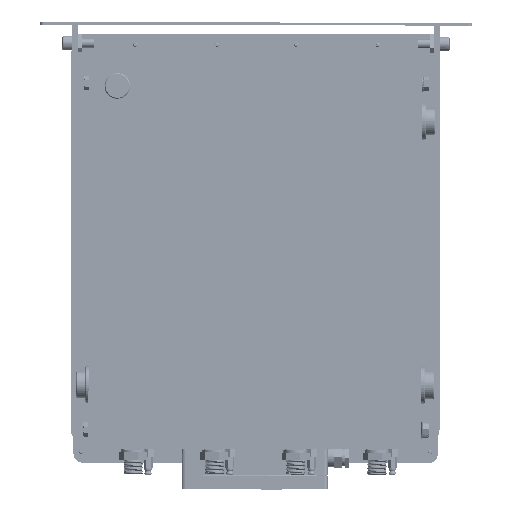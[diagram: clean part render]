
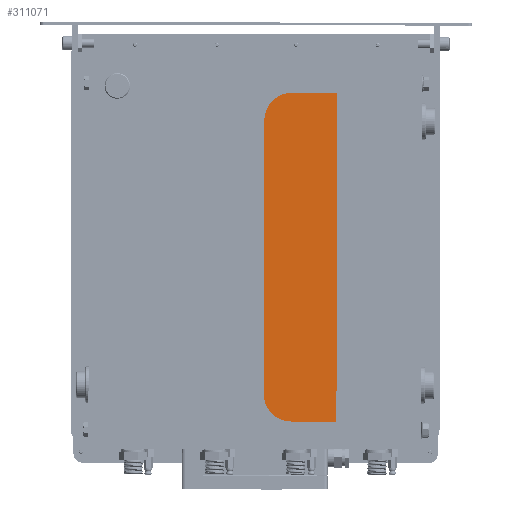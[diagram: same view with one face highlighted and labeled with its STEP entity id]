
A CAD part, left-side view. The second image highlights one B-rep face of the part: STEP entity #311071.
In plain terms, the highlighted planar face has unit normal (-1, 0, 0).
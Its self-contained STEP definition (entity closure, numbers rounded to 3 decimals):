
#1935 = CARTESIAN_POINT ( 'NONE',  ( -474.654, -89.817, -152.748 ) ) ;
#3668 = FACE_OUTER_BOUND ( 'NONE', #107673, .T. ) ;
#6224 = VERTEX_POINT ( 'NONE', #675139 ) ;
#6258 = DIRECTION ( 'NONE',  ( -1., 0., 0. ) ) ;
#10608 = EDGE_CURVE ( 'NONE', #527935, #594265, #633053, .T. ) ;
#11725 = ORIENTED_EDGE ( 'NONE', *, *, #548638, .F. ) ;
#16245 = ORIENTED_EDGE ( 'NONE', *, *, #467675, .F. ) ;
#29129 = DIRECTION ( 'NONE',  ( 0., -0.002, 1. ) ) ;
#37312 = EDGE_LOOP ( 'NONE', ( #623982, #812545 ) ) ;
#51922 = DIRECTION ( 'NONE',  ( -1., 0., 0. ) ) ;
#53076 = VECTOR ( 'NONE', #738339, 1000. ) ;
#61469 = CARTESIAN_POINT ( 'NONE',  ( -474.654, -178.817, -152.933 ) ) ;
#63886 = CARTESIAN_POINT ( 'NONE',  ( -474.654, -97.261, 238.238 ) ) ;
#69806 = EDGE_LOOP ( 'NONE', ( #189135, #16245 ) ) ;
#75980 = AXIS2_PLACEMENT_3D ( 'NONE', #413639, #797545, #400562 ) ;
#86024 = VERTEX_POINT ( 'NONE', #235310 ) ;
#88205 = DIRECTION ( 'NONE',  ( 0., -1., -0.002 ) ) ;
#96599 = VERTEX_POINT ( 'NONE', #789903 ) ;
#107673 = EDGE_LOOP ( 'NONE', ( #534698, #363158, #569594, #182993 ) ) ;
#152787 = DIRECTION ( 'NONE',  ( -1., 0., 0. ) ) ;
#152804 = DIRECTION ( 'NONE',  ( -1., 0., 0. ) ) ;
#162263 = AXIS2_PLACEMENT_3D ( 'NONE', #374166, #581360, #246322 ) ;
#178066 = CARTESIAN_POINT ( 'NONE',  ( -474.654, -97.261, 238.238 ) ) ;
#179233 = VECTOR ( 'NONE', #88205, 1000. ) ;
#182993 = ORIENTED_EDGE ( 'NONE', *, *, #495577, .T. ) ;
#188619 = DIRECTION ( 'NONE',  ( 0., -0.002, 1. ) ) ;
#188927 = AXIS2_PLACEMENT_3D ( 'NONE', #63886, #253826, #271132 ) ;
#189135 = ORIENTED_EDGE ( 'NONE', *, *, #565856, .F. ) ;
#190206 = ORIENTED_EDGE ( 'NONE', *, *, #380098, .F. ) ;
#191095 = DIRECTION ( 'NONE',  ( -1., 0., 0. ) ) ;
#215349 = CARTESIAN_POINT ( 'NONE',  ( -474.654, -90.65, 247.252 ) ) ;
#221628 = VERTEX_POINT ( 'NONE', #614911 ) ;
#225328 = AXIS2_PLACEMENT_3D ( 'NONE', #359930, #152787, #29129 ) ;
#230576 = CARTESIAN_POINT ( 'NONE',  ( -474.654, -89.817, -152.748 ) ) ;
#235310 = CARTESIAN_POINT ( 'NONE',  ( -474.654, -90.65, 247.252 ) ) ;
#245615 = CARTESIAN_POINT ( 'NONE',  ( -474.654, -172.819, 241.44 ) ) ;
#246322 = DIRECTION ( 'NONE',  ( 0., -0.002, 1. ) ) ;
#253826 = DIRECTION ( 'NONE',  ( -1., 0., 0. ) ) ;
#257952 = LINE ( 'NONE', #1935, #53076 ) ;
#258805 = EDGE_CURVE ( 'NONE', #368907, #552821, #392263, .T. ) ;
#258981 = ORIENTED_EDGE ( 'NONE', *, *, #689486, .F. ) ;
#268357 = FACE_BOUND ( 'NONE', #734120, .T. ) ;
#271132 = DIRECTION ( 'NONE',  ( 0., -0.002, 1. ) ) ;
#276318 = EDGE_CURVE ( 'NONE', #86024, #391688, #257952, .T. ) ;
#281526 = LINE ( 'NONE', #215349, #827194 ) ;
#311071 = ADVANCED_FACE ( 'NONE', ( #479769, #599052, #268357, #748761, #3668 ), #537255, .T. ) ;
#323488 = CIRCLE ( 'NONE', #225328, 3.36 ) ;
#331521 = CIRCLE ( 'NONE', #162263, 3.36 ) ;
#336376 = CARTESIAN_POINT ( 'NONE',  ( -474.654, -172.812, 238.08 ) ) ;
#345942 = CARTESIAN_POINT ( 'NONE',  ( -474.654, -97.268, 241.598 ) ) ;
#359930 = CARTESIAN_POINT ( 'NONE',  ( -474.654, -96.836, -143.762 ) ) ;
#363158 = ORIENTED_EDGE ( 'NONE', *, *, #632302, .T. ) ;
#368907 = VERTEX_POINT ( 'NONE', #419512 ) ;
#374166 = CARTESIAN_POINT ( 'NONE',  ( -474.654, -96.836, -143.762 ) ) ;
#374466 = AXIS2_PLACEMENT_3D ( 'NONE', #382669, #51922, #188619 ) ;
#380098 = EDGE_CURVE ( 'NONE', #6224, #465743, #487152, .T. ) ;
#382669 = CARTESIAN_POINT ( 'NONE',  ( -474.654, -172.206, -143.919 ) ) ;
#384579 = VECTOR ( 'NONE', #387909, 1000. ) ;
#387909 = DIRECTION ( 'NONE',  ( 0., -0.002, 1. ) ) ;
#391688 = VERTEX_POINT ( 'NONE', #230576 ) ;
#392263 = LINE ( 'NONE', #61469, #384579 ) ;
#400562 = DIRECTION ( 'NONE',  ( 0., -0.002, 1. ) ) ;
#402616 = EDGE_LOOP ( 'NONE', ( #258981, #491939 ) ) ;
#413639 = CARTESIAN_POINT ( 'NONE',  ( -474.654, -579.66, 246.233 ) ) ;
#415816 = CIRCLE ( 'NONE', #865859, 3.36 ) ;
#419512 = CARTESIAN_POINT ( 'NONE',  ( -474.654, -178.817, -152.933 ) ) ;
#423379 = LINE ( 'NONE', #692278, #179233 ) ;
#428099 = CIRCLE ( 'NONE', #188927, 3.36 ) ;
#447001 = DIRECTION ( 'NONE',  ( -1., 0., 0. ) ) ;
#459673 = EDGE_CURVE ( 'NONE', #680363, #661657, #415816, .T. ) ;
#460676 = CARTESIAN_POINT ( 'NONE',  ( -474.654, -172.812, 238.08 ) ) ;
#465743 = VERTEX_POINT ( 'NONE', #568770 ) ;
#467675 = EDGE_CURVE ( 'NONE', #221628, #96599, #331521, .T. ) ;
#468371 = EDGE_CURVE ( 'NONE', #661657, #680363, #754506, .T. ) ;
#474739 = CARTESIAN_POINT ( 'NONE',  ( -474.654, -97.254, 234.878 ) ) ;
#479769 = FACE_BOUND ( 'NONE', #37312, .T. ) ;
#487152 = CIRCLE ( 'NONE', #374466, 3.36 ) ;
#491939 = ORIENTED_EDGE ( 'NONE', *, *, #10608, .F. ) ;
#495577 = EDGE_CURVE ( 'NONE', #391688, #368907, #423379, .T. ) ;
#527935 = VERTEX_POINT ( 'NONE', #474739 ) ;
#534698 = ORIENTED_EDGE ( 'NONE', *, *, #258805, .T. ) ;
#537255 = PLANE ( 'NONE',  #75980 ) ;
#548638 = EDGE_CURVE ( 'NONE', #465743, #6224, #754850, .T. ) ;
#552821 = VERTEX_POINT ( 'NONE', #615438 ) ;
#565856 = EDGE_CURVE ( 'NONE', #96599, #221628, #323488, .T. ) ;
#568770 = CARTESIAN_POINT ( 'NONE',  ( -474.654, -172.213, -140.559 ) ) ;
#569594 = ORIENTED_EDGE ( 'NONE', *, *, #276318, .T. ) ;
#581360 = DIRECTION ( 'NONE',  ( -1., 0., 0. ) ) ;
#594265 = VERTEX_POINT ( 'NONE', #345942 ) ;
#596633 = DIRECTION ( 'NONE',  ( 0., -0.002, 1. ) ) ;
#599052 = FACE_BOUND ( 'NONE', #402616, .T. ) ;
#614911 = CARTESIAN_POINT ( 'NONE',  ( -474.654, -96.829, -147.122 ) ) ;
#615438 = CARTESIAN_POINT ( 'NONE',  ( -474.654, -179.65, 247.066 ) ) ;
#620207 = CARTESIAN_POINT ( 'NONE',  ( -474.654, -172.206, -143.919 ) ) ;
#623982 = ORIENTED_EDGE ( 'NONE', *, *, #468371, .F. ) ;
#632302 = EDGE_CURVE ( 'NONE', #552821, #86024, #281526, .T. ) ;
#633053 = CIRCLE ( 'NONE', #731861, 3.36 ) ;
#661657 = VERTEX_POINT ( 'NONE', #245615 ) ;
#663488 = DIRECTION ( 'NONE',  ( 0., -0.002, 1. ) ) ;
#675139 = CARTESIAN_POINT ( 'NONE',  ( -474.654, -172.199, -147.279 ) ) ;
#680363 = VERTEX_POINT ( 'NONE', #797807 ) ;
#689486 = EDGE_CURVE ( 'NONE', #594265, #527935, #428099, .T. ) ;
#692278 = CARTESIAN_POINT ( 'NONE',  ( -474.654, -89.817, -152.748 ) ) ;
#698215 = AXIS2_PLACEMENT_3D ( 'NONE', #620207, #152804, #752513 ) ;
#715977 = DIRECTION ( 'NONE',  ( 0., -0.002, 1. ) ) ;
#731861 = AXIS2_PLACEMENT_3D ( 'NONE', #178066, #447001, #715977 ) ;
#734120 = EDGE_LOOP ( 'NONE', ( #11725, #190206 ) ) ;
#738339 = DIRECTION ( 'NONE',  ( 0., 0.002, -1. ) ) ;
#748761 = FACE_BOUND ( 'NONE', #69806, .T. ) ;
#752513 = DIRECTION ( 'NONE',  ( 0., -0.002, 1. ) ) ;
#753241 = DIRECTION ( 'NONE',  ( 0., 1., 0.002 ) ) ;
#754506 = CIRCLE ( 'NONE', #867160, 3.36 ) ;
#754850 = CIRCLE ( 'NONE', #698215, 3.36 ) ;
#789903 = CARTESIAN_POINT ( 'NONE',  ( -474.654, -96.843, -140.402 ) ) ;
#797545 = DIRECTION ( 'NONE',  ( -1., 0., 0. ) ) ;
#797807 = CARTESIAN_POINT ( 'NONE',  ( -474.654, -172.805, 234.72 ) ) ;
#812545 = ORIENTED_EDGE ( 'NONE', *, *, #459673, .F. ) ;
#827194 = VECTOR ( 'NONE', #753241, 1000. ) ;
#865859 = AXIS2_PLACEMENT_3D ( 'NONE', #460676, #6258, #663488 ) ;
#867160 = AXIS2_PLACEMENT_3D ( 'NONE', #336376, #191095, #596633 ) ;
